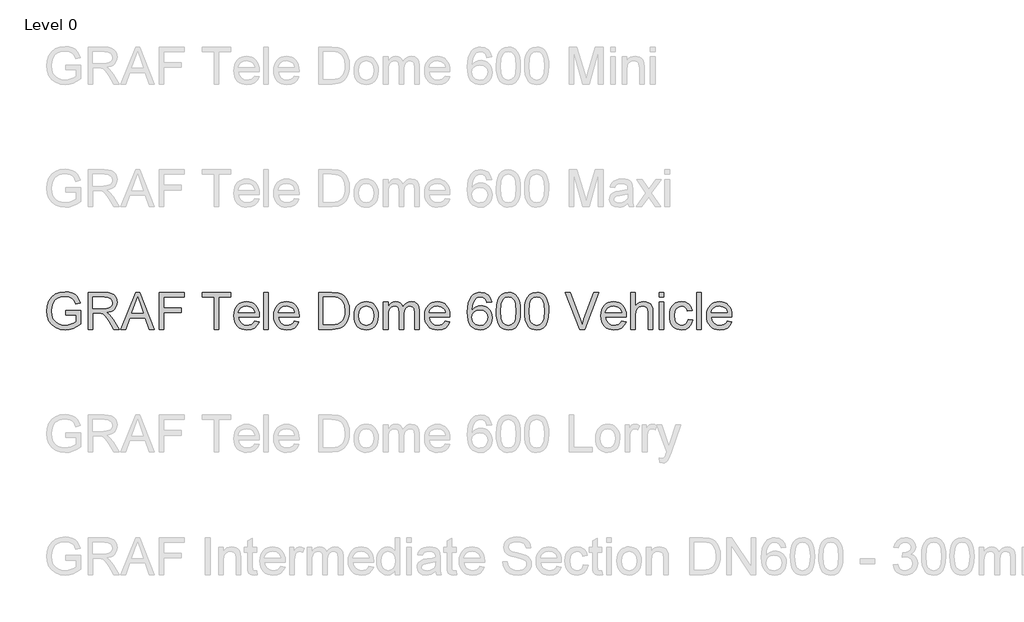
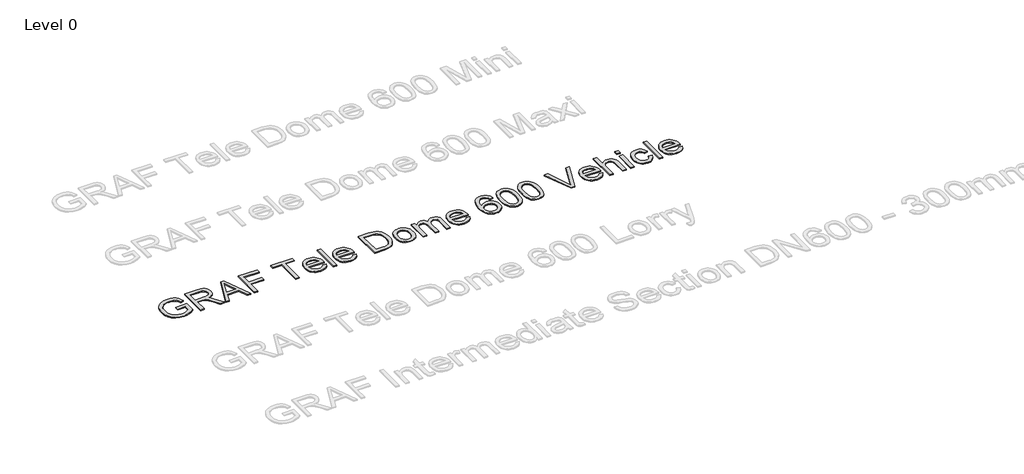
# One storey, part 7 of 20: 1 proxy.
"""IFC4 building model written with IfcOpenShell, lengths in millimetres."""

import ifcopenshell
import ifcopenshell.guid

model = None  # the IFC model being written
_history = None  # IfcOwnerHistory: only IFC2X3 demands one
_inside = {}  # id of a spatial element -> (the spatial element, [elements in it])
_under = {}  # id of a project, library or spatial element -> (it, [spatial elements below it])
_declared = {}  # id of a project -> (the project, [libraries it declares])
_typed = {}  # id of a type object -> (the type object, [elements of that type])
_made_of = {}  # id of a material, layer set ... -> (it, [elements and type objects made of it])


def new_model(schema):
    """Start an empty IFC model of exactly this schema.

    Asked for "IFC4X3", IfcOpenShell would pick the latest addendum, in which some entities
    have other attributes; the version numbers below select the first issue.
    IFC2X3 requires an IfcOwnerHistory on every rooted entity: one is made here for all.
    """
    global model, _history
    if schema == "IFC4X3":
        model = ifcopenshell.file(schema_version=(4, 3, 0, 0))
    else:
        model = ifcopenshell.file(schema=schema)
    _inside.clear()
    _under.clear()
    _declared.clear()
    _typed.clear()
    _made_of.clear()
    _history = None
    if model.schema == "IFC2X3":
        org = make("IfcOrganization", Name="unknown")
        user = make(
            "IfcPersonAndOrganization",
            ThePerson=make("IfcPerson", FamilyName="unknown"),
            TheOrganization=org,
        )
        app = make(
            "IfcApplication",
            ApplicationDeveloper=org,
            Version="unknown",
            ApplicationFullName="unknown",
            ApplicationIdentifier="unknown",
        )
        _history = make(
            "IfcOwnerHistory",
            OwningUser=user,
            OwningApplication=app,
            ChangeAction="ADDED",
            CreationDate=0,
        )
    return model


def make(cls, **values):
    """One entity of the class cls with the attributes given. An attribute that is None is left unset."""
    return model.create_entity(
        cls, **{name: value for name, value in values.items() if value is not None}
    )


def rooted(cls, **values):
    """An entity with a GlobalId (a new one), such as an element, a storey or a relation."""
    return make(cls, GlobalId=ifcopenshell.guid.new(), OwnerHistory=_history, **values)


def si_unit(unit_type, name, prefix=None):
    """IfcSIUnit, for example si_unit("LENGTHUNIT", "METRE", prefix="MILLI")."""
    return make("IfcSIUnit", UnitType=unit_type, Prefix=prefix, Name=name)


def assignment(units):
    """IfcUnitAssignment: the units of a project."""
    return None if units is None else make("IfcUnitAssignment", Units=units)


def point(xyz):
    """IfcCartesianPoint."""
    return None if xyz is None else make("IfcCartesianPoint", Coordinates=xyz)


def direction(xyz):
    """IfcDirection."""
    return None if xyz is None else make("IfcDirection", DirectionRatios=xyz)


def frame(location, z_axis=None, x_axis=None):
    """IfcAxis2Placement3D, a coordinate frame: its origin and axes. An axis left out is left unset."""
    return make(
        "IfcAxis2Placement3D",
        Location=point(location),
        Axis=direction(z_axis),
        RefDirection=direction(x_axis),
    )


def origin():
    """The frame at (0, 0, 0) with its axes left unset."""
    return frame((0.0, 0.0, 0.0))


def origin_with_axes():
    """The frame at (0, 0, 0) with the z axis (0, 0, 1) and the x axis (1, 0, 0) written out."""
    return frame((0.0, 0.0, 0.0), z_axis=(0.0, 0.0, 1.0), x_axis=(1.0, 0.0, 0.0))


def place(relative_to, where):
    """IfcLocalPlacement: puts the frame where relative to a parent placement (None: the world)."""
    return make(
        "IfcLocalPlacement", PlacementRelTo=relative_to, RelativePlacement=where
    )


def context(
    kind, dimensions, precision=None, world=None, true_north=None, identifier=None
):
    """IfcGeometricRepresentationContext, for example the 3D "Model" context."""
    return make(
        "IfcGeometricRepresentationContext",
        ContextIdentifier=identifier,
        ContextType=kind,
        CoordinateSpaceDimension=dimensions,
        Precision=precision,
        WorldCoordinateSystem=world,
        TrueNorth=true_north,
    )


def project(units=None, contexts=None):
    """IfcProject with its units and contexts."""
    return rooted(
        "IfcProject",
        Name="project",
        RepresentationContexts=contexts,
        UnitsInContext=assignment(units),
    )


def spatial(cls, under=None, at=None, **own):
    """A site, building, storey or space (cls), placed at a placement, below another one or the project."""
    s = rooted(cls, ObjectPlacement=at, **own)
    if under is not None:
        _under.setdefault(under.id(), (under, []))[1].append(s)
    return s


def polyline(points):
    """IfcPolyline through the points."""
    return make("IfcPolyline", Points=[point(p) for p in points])


def outline(outer, holes=None, kind="AREA"):
    """IfcArbitraryClosedProfileDef: a profile drawn as a closed curve; with holes, ...WithVoids."""
    if holes is None:
        return make("IfcArbitraryClosedProfileDef", ProfileType=kind, OuterCurve=outer)
    return make(
        "IfcArbitraryProfileDefWithVoids",
        ProfileType=kind,
        OuterCurve=outer,
        InnerCurves=holes,
    )


def extrude(swept, where, along, depth):
    """IfcExtrudedAreaSolid: the profile swept, set in the frame where, extruded along a direction by depth."""
    return make(
        "IfcExtrudedAreaSolid",
        SweptArea=swept,
        Position=where,
        ExtrudedDirection=direction(along),
        Depth=depth,
    )


def shape(context_of_items, identifier, shape_type, items):
    """IfcShapeRepresentation: the items that make up one representation, for example the "Body"."""
    return make(
        "IfcShapeRepresentation",
        ContextOfItems=context_of_items,
        RepresentationIdentifier=identifier,
        RepresentationType=shape_type,
        Items=items,
    )


def made_of(thing, what):
    """Note that an element or type object is made of a material, layer set ...; save() writes the relation."""
    if what is not None:
        _made_of.setdefault(what.id(), (what, []))[1].append(thing)
    return thing


def element(
    cls,
    number,
    at=None,
    inside=None,
    cuts=None,
    type_object=None,
    material=None,
    context=None,
    identifier="Body",
    shape_type=None,
    held_by="IfcProductDefinitionShape",
    body=None,
    shapes=None,
    **own,
):
    """One element of the class cls, such as IfcWall. Its Tag is "e" and its number.

    at: its placement. inside: the storey or other place that contains it. cuts: it is an
    opening in that element (IfcRelVoidsElement). A single representation is given by context,
    identifier, shape_type and body (its items); several are given by shapes. held_by: the class
    of the entity that holds the representations. save() writes the other relations.
    """
    e = rooted(cls, Tag="e%d" % number, ObjectPlacement=at, **own)
    if body is not None:
        shapes = [shape(context, identifier, shape_type, body)]
    if shapes is not None:
        e.Representation = make(held_by, Representations=shapes)
    if inside is not None:
        _inside.setdefault(inside.id(), (inside, []))[1].append(e)
    if cuts is not None:
        rooted(
            "IfcRelVoidsElement", RelatingBuildingElement=cuts, RelatedOpeningElement=e
        )
    if type_object is not None:
        _typed.setdefault(type_object.id(), (type_object, []))[1].append(e)
    return made_of(e, material)


def aggregate(whole, parts):
    """IfcRelAggregates: a whole, such as a stair, and the parts it consists of."""
    return rooted("IfcRelAggregates", RelatingObject=whole, RelatedObjects=parts)


def save(model, path):
    """Write the relations noted so far, then the file.

    IfcRelAggregates (storeys below a building ...), IfcRelContainedInSpatialStructure (elements
    in a storey), IfcRelDefinesByType, IfcRelAssociatesMaterial and IfcRelDeclares: one each for
    every whole, place, type object, material and project.
    """
    for whole, parts in _under.values():
        aggregate(whole, parts)
    for where, things in _inside.values():
        rooted(
            "IfcRelContainedInSpatialStructure",
            RelatedElements=things,
            RelatingStructure=where,
        )
    for kind, things in _typed.values():
        rooted("IfcRelDefinesByType", RelatedObjects=things, RelatingType=kind)
    for what, things in _made_of.values():
        rooted("IfcRelAssociatesMaterial", RelatedObjects=things, RelatingMaterial=what)
    for by, libraries in _declared.values():
        rooted("IfcRelDeclares", RelatingContext=by, RelatedDefinitions=libraries)
    model.write(path)


model = new_model("IFC4")

# Units and contexts
model_context = context("Model", 3, world=origin())
ifc_project = project(units=[si_unit("LENGTHUNIT", "METRE", prefix="MILLI")], contexts=[model_context])

# Site, building, storey
site = spatial("IfcSite", under=ifc_project)
building = spatial("IfcBuilding", under=site)
storey = spatial("IfcBuildingStorey", under=building, Name="Level 0", Elevation=0.0)

# Proxy
placement = place(None, origin())
element("IfcBuildingElementProxy", 1, Name="300mm Arial", ObjectType="300mm Arial", at=placement, inside=storey, context=model_context, shape_type="SweptSolid", body=[
    extrude(outline(polyline([(-15240.9940387, -11082.9794047), (-15240.9940387, -11045.3082884), (-15118.5629107, -11045.3082884), (-15118.5629107, -11157.9537553), (-15148.3153671, -11178.6471176), (-15179.0059225, -11193.4911561), (-15210.5610007, -11202.4306885), (-15242.9070251, -11205.4105327), (-15285.1674693, -11200.674052), (-15323.3628175, -11186.46461), (-15355.0926395, -11163.2788472), (-15377.9565055, -11131.6134045), (-15391.7796715, -11093.6295885), (-15396.3873935, -11051.4887059), (-15391.7980656, -11009.0443207), (-15378.0300819, -10969.5613856), (-15355.6536596, -10936.442809), (-15325.2390156, -10913.0914993), (-15288.1932987, -10899.2407422), (-15245.9236575, -10894.6238232), (-15214.8928112, -10897.3001647), (-15186.9889618, -10905.3291892), (-15163.4904994, -10918.1314827), (-15145.6758138, -10935.1276309), (-15132.4964413, -10957.1361712), (-15122.9039183, -10984.9756412), (-15157.6319786, -10994.7613023), (-15165.3850917, -10974.9048716), (-15174.8120678, -10959.9228773), (-15187.2832674, -10948.6289001), (-15204.169051, -10939.8365204), (-15224.3013932, -10934.1803347), (-15246.5122687, -10932.2949395), (-15272.5123287, -10934.3274875), (-15294.7415982, -10940.4251316), (-15313.1173039, -10949.8245166), (-15327.5566722, -10961.7622873), (-15346.9440533, -10990.7881767), (-15355.7732212, -11019.225455), (-15358.7162772, -11049.9436015), (-15355.175413, -11085.9684459), (-15344.5528204, -11115.6105377), (-15327.1703961, -11138.6583447), (-15303.3500369, -11154.9003348), (-15275.4737787, -11164.529646), (-15245.9236575, -11167.7394164), (-15219.831627, -11165.3205923), (-15194.3833899, -11158.0641199), (-15172.2828791, -11148.0669267), (-15156.234027, -11137.42594), (-15156.234027, -11082.9794047), (-15240.9940387, -11082.9794047)])), origin_with_axes(), (0.0, 0.0, 1.0), 10.0),
    extrude(outline(polyline([(-15057.3473467, -11200.7016432), (-15057.3473467, -10899.3327127), (-14927.4850024, -10899.3327127), (-14892.5821982, -10901.3652607), (-14867.1891434, -10907.4629048), (-14848.6294968, -10918.7200939), (-14834.2269167, -10936.2312768), (-14824.9838815, -10957.9455116), (-14821.9028698, -10981.811856), (-14827.0072325, -11011.4999331), (-14842.3203206, -11036.1112385), (-14853.9200997, -11046.1406214), (-14868.3019865, -11054.1558504), (-14905.4120827, -11064.1438466), (-14884.0013506, -11080.257078), (-14853.467145, -11119.0318402), (-14803.2144645, -11200.7016432), (-14846.9924219, -11200.7016432), (-14886.2086426, -11138.2352804), (-14914.5355562, -11096.8853441), (-14934.4379722, -11077.3508102), (-14952.3538253, -11070.1771113), (-14974.2060158, -11068.8527361), (-15019.6762304, -11068.8527361), (-15019.6762304, -11200.7016432), (-15057.3473467, -11200.7016432)]), holes=[polyline([(-15019.6762304, -11031.1816198), (-14935.3576771, -11031.1816198), (-14911.1418448, -11029.8480476), (-14892.3522719, -11025.8473309), (-14878.2072092, -11018.9127553), (-14867.9249074, -11008.7776063), (-14861.6617165, -10996.5179388), (-14859.5739861, -10983.2098076), (-14863.5563087, -10964.834102), (-14875.5032765, -10950.0268517), (-14896.058683, -10940.2595847), (-14925.8663217, -10937.003829), (-15019.6762304, -10937.003829), (-15019.6762304, -11031.1816198)])]), origin_with_axes(), (0.0, 0.0, 1.0), 10.0),
    extrude(outline(polyline([(-14791.0743586, -11200.7016432), (-14670.7769462, -10899.3327127), (-14638.6976362, -10899.3327127), (-14518.4002238, -11200.7016432), (-14558.2050557, -11200.7016432), (-14592.7123868, -11106.5238524), (-14716.835772, -11106.5238524), (-14751.2695268, -11200.7016432), (-14791.0743586, -11200.7016432)]), holes=[polyline([(-14703.003409, -11068.8527361), (-14606.4711735, -11068.8527361), (-14633.6208647, -10994.7613023), (-14654.7372912, -10937.003829), (-14673.499273, -10988.2865792), (-14703.003409, -11068.8527361)])]), origin_with_axes(), (0.0, 0.0, 1.0), 10.0),
    extrude(outline(polyline([(-14478.1539335, -11200.7016432), (-14478.1539335, -10899.3327127), (-14275.6716834, -10899.3327127), (-14275.6716834, -10937.003829), (-14440.4828172, -10937.003829), (-14440.4828172, -11026.4727303), (-14299.2161311, -11026.4727303), (-14299.2161311, -11064.1438466), (-14440.4828172, -11064.1438466), (-14440.4828172, -11200.7016432), (-14478.1539335, -11200.7016432)])), origin_with_axes(), (0.0, 0.0, 1.0), 10.0),
    extrude(outline(polyline([(-14030.8094274, -11200.7016432), (-14030.8094274, -10937.003829), (-14129.6961077, -10937.003829), (-14129.6961077, -10899.3327127), (-13894.2516308, -10899.3327127), (-13894.2516308, -10937.003829), (-13993.1383111, -10937.003829), (-13993.1383111, -11200.7016432), (-14030.8094274, -11200.7016432)])), origin_with_axes(), (0.0, 0.0, 1.0), 10.0),
    extrude(outline(polyline([(-13701.6286181, -11134.7771896), (-13664.6932658, -11139.4860792), (-13678.001397, -11167.3163521), (-13699.2373851, -11188.1200789), (-13727.9229837, -11201.0879193), (-13763.5799461, -11205.4105327), (-13786.9542484, -11203.5458308), (-13807.7809678, -11197.9517253), (-13826.0601045, -11188.6282159), (-13841.7916583, -11175.5753029), (-13854.4422004, -11159.1562696), (-13863.4783019, -11139.7343995), (-13868.8999628, -11117.3096927), (-13870.7071831, -11091.882149), (-13868.8815687, -11065.5923819), (-13863.4047255, -11042.4204147), (-13854.2766535, -11022.3662475), (-13841.4973527, -11005.4298801), (-13825.8071856, -10991.9745962), (-13807.9465147, -10982.363679), (-13787.9153401, -10976.5971288), (-13765.7136617, -10974.6749453), (-13744.2270539, -10976.5925302), (-13724.7959868, -10982.3452849), (-13707.4204603, -10991.9332094), (-13692.1004744, -11005.3563037), (-13679.5947859, -11022.2558829), (-13670.6621512, -11042.2732619), (-13665.3025704, -11065.4084409), (-13663.5160434, -11091.6614198), (-13663.7367726, -11101.8149629), (-13833.0360668, -11101.8149629), (-13826.5153584, -11130.0131178), (-13811.3678173, -11150.7432682), (-13789.5064297, -11163.4903794), (-13762.8441821, -11167.7394164), (-13742.7946134, -11165.7712477), (-13725.9088298, -11159.8667417), (-13712.1868314, -11149.6580163), (-13701.6286181, -11134.7771896)]), holes=[polyline([(-13833.0360668, -11064.1438466), (-13701.1871597, -11064.1438466), (-13706.2823254, -11044.2414306), (-13716.2703215, -11030.0043974), (-13738.2328766, -11016.7606456), (-13765.8608145, -11012.3460616), (-13791.2538692, -11015.8685317), (-13812.2507341, -11026.4359421), (-13826.8464522, -11042.9078584), (-13833.0360668, -11064.1438466)])]), origin_with_axes(), (0.0, 0.0, 1.0), 10.0),
    extrude(outline(polyline([(-13625.8449271, -11200.7016432), (-13625.8449271, -10899.3327127), (-13588.1738108, -10899.3327127), (-13588.1738108, -11200.7016432), (-13625.8449271, -11200.7016432)])), origin_with_axes(), (0.0, 0.0, 1.0), 10.0),
    extrude(outline(polyline([(-13376.71524, -11134.7771896), (-13339.7798877, -11139.4860792), (-13353.0880188, -11167.3163521), (-13374.324007, -11188.1200789), (-13403.0096056, -11201.0879193), (-13438.666568, -11205.4105327), (-13462.0408702, -11203.5458308), (-13482.8675897, -11197.9517253), (-13501.1467263, -11188.6282159), (-13516.8782801, -11175.5753029), (-13529.5288222, -11159.1562696), (-13538.5649238, -11139.7343995), (-13543.9865847, -11117.3096927), (-13545.793805, -11091.882149), (-13543.9681906, -11065.5923819), (-13538.4913474, -11042.4204147), (-13529.3632754, -11022.3662475), (-13516.5839745, -11005.4298801), (-13500.8938074, -10991.9745962), (-13483.0331366, -10982.363679), (-13463.0019619, -10976.5971288), (-13440.8002835, -10974.6749453), (-13419.3136758, -10976.5925302), (-13399.8826086, -10982.3452849), (-13382.5070821, -10991.9332094), (-13367.1870963, -11005.3563037), (-13354.6814077, -11022.2558829), (-13345.748773, -11042.2732619), (-13340.3891922, -11065.4084409), (-13338.6026653, -11091.6614198), (-13338.8233945, -11101.8149629), (-13508.1226887, -11101.8149629), (-13501.6019803, -11130.0131178), (-13486.4544391, -11150.7432682), (-13464.5930516, -11163.4903794), (-13437.930804, -11167.7394164), (-13417.8812352, -11165.7712477), (-13400.9954517, -11159.8667417), (-13387.2734532, -11149.6580163), (-13376.71524, -11134.7771896)]), holes=[polyline([(-13508.1226887, -11064.1438466), (-13376.2737816, -11064.1438466), (-13381.3689472, -11044.2414306), (-13391.3569434, -11030.0043974), (-13413.3194985, -11016.7606456), (-13440.9474363, -11012.3460616), (-13466.3404911, -11015.8685317), (-13487.3373559, -11026.4359421), (-13501.9330741, -11042.9078584), (-13508.1226887, -11064.1438466)])]), origin_with_axes(), (0.0, 0.0, 1.0), 10.0),
    extrude(outline(polyline([(-13178.500421, -11200.7016432), (-13178.500421, -10899.3327127), (-13074.5369691, -10899.3327127), (-13020.7526214, -10903.6737203), (-12996.7299272, -10912.0430357), (-12976.4596292, -10925.2316052), (-12955.6191142, -10948.1874417), (-12940.7750757, -10976.7350845), (-12931.8907255, -11010.3227107), (-12928.9292754, -11048.3984972), (-12930.9342323, -11080.7445216), (-12936.9491029, -11109.209391), (-12946.1093646, -11133.4436174), (-12957.5504947, -11153.097713), (-12970.7206701, -11168.6131361), (-12985.0680679, -11180.4313452), (-13001.5399842, -11189.1961338), (-13021.0837152, -11195.5512952), (-13069.533774, -11200.7016432), (-13178.500421, -11200.7016432)]), holes=[polyline([(-13140.8293047, -11163.0305269), (-13074.1690871, -11163.0305269), (-13046.5963316, -11161.6693635), (-13025.6822402, -11157.5858733), (-13009.9001026, -11151.0191797), (-12997.7232085, -11142.2084059), (-12984.6358066, -11125.9020365), (-12974.8041602, -11104.794807), (-12968.6513339, -11078.794747), (-12966.6003918, -11047.809886), (-12970.6195026, -11006.7542553), (-12982.6768349, -10976.4407789), (-13000.4915206, -10955.618658), (-13021.782691, -10943.0370938), (-13043.4509405, -10938.5121452), (-13075.1991567, -10937.003829), (-13140.8293047, -10937.003829), (-13140.8293047, -11163.0305269)])]), origin_with_axes(), (0.0, 0.0, 1.0), 10.0),
    extrude(outline(polyline([(-12891.2581591, -11090.042739), (-12889.2210126, -11061.3801331), (-12883.1095729, -11036.6814556), (-12872.9238402, -11015.9467067), (-12858.6638144, -10999.1758862), (-12844.3072195, -10988.4567246), (-12828.4607026, -10980.8001806), (-12811.1242635, -10976.2062541), (-12792.2979024, -10974.6749453), (-12771.514869, -10976.5396472), (-12752.7229968, -10982.1337528), (-12735.9222859, -10991.4572621), (-12721.1127364, -11004.5101751), (-12709.0255136, -11020.8510335), (-12700.391783, -11040.0383788), (-12695.2115447, -11062.0722111), (-12693.4847985, -11086.9525303), (-12696.5382191, -11125.0099227), (-12705.6984808, -11153.9806298), (-12720.6988691, -11175.6764705), (-12741.2726697, -11191.9092635), (-12765.7092312, -11202.0352154), (-12792.2979024, -11205.4105327), (-12813.3844386, -11203.5527286), (-12832.3510547, -11197.9793164), (-12849.1977508, -11188.690296), (-12863.9245269, -11175.6856675), (-12875.882991, -11159.18616), (-12884.4247511, -11139.4125028), (-12889.5498071, -11116.3646958), (-12891.2581591, -11090.042739)]), holes=[polyline([(-12853.5870428, -11089.9691626), (-12849.2276412, -11124.0626265), (-12836.1494363, -11148.3520353), (-12816.4677495, -11162.8925711), (-12792.2979024, -11167.7394164), (-12768.23842, -11162.86498), (-12748.5935214, -11148.2416707), (-12735.5153165, -11123.6303652), (-12731.1559148, -11088.7919402), (-12735.5429076, -11055.6917577), (-12748.703886, -11031.7334428), (-12768.3763757, -11017.1929069), (-12792.2979024, -11012.3460616), (-12816.4677495, -11017.1745128), (-12836.1494363, -11031.6598664), (-12849.2276412, -11055.8940928), (-12853.5870428, -11089.9691626)])]), origin_with_axes(), (0.0, 0.0, 1.0), 10.0),
    extrude(outline(polyline([(-12651.1047927, -11200.7016432), (-12651.1047927, -10979.3838349), (-12613.4336764, -10979.3838349), (-12613.4336764, -11015.8041524), (-12602.1029109, -10999.0747187), (-12587.5347839, -10985.9689226), (-12570.2259361, -10977.4984396), (-12550.673008, -10974.6749453), (-12529.7221284, -10977.5536219), (-12512.9283153, -10986.1896518), (-12500.3835393, -11000.0128178), (-12492.1797708, -11018.4529028), (-12478.4485753, -10999.3000464), (-12462.7859994, -10985.6194347), (-12445.1920429, -10977.4110677), (-12425.666706, -10974.6749453), (-12397.3489895, -10979.227485), (-12376.4073069, -10992.8851041), (-12363.4670577, -11016.0156845), (-12359.1536413, -11048.9871084), (-12359.1536413, -11200.7016432), (-12396.8247576, -11200.7016432), (-12396.8247576, -11065.1739161), (-12400.3196366, -11033.7200056), (-12405.2308612, -11025.0471875), (-12412.9747772, -11018.2321736), (-12422.9351822, -11013.8175896), (-12434.4958739, -11012.3460616), (-12454.9041276, -11016.1168521), (-12471.5415908, -11027.4292234), (-12482.6056419, -11047.0557279), (-12486.2936589, -11075.7689176), (-12486.2936589, -11200.7016432), (-12523.9647752, -11200.7016432), (-12523.9647752, -11060.9800614), (-12526.144476, -11039.6796939), (-12532.6835784, -11024.4861675), (-12544.1890878, -11015.3810881), (-12561.2680095, -11012.3460616), (-12575.7809542, -11014.3694126), (-12589.1534647, -11020.4394655), (-12600.1899246, -11030.4090676), (-12607.6947173, -11044.131066), (-12611.9989366, -11063.1689593), (-12613.4336764, -11089.0862458), (-12613.4336764, -11200.7016432), (-12651.1047927, -11200.7016432)])), origin_with_axes(), (0.0, 0.0, 1.0), 10.0),
    extrude(outline(polyline([(-12147.6950705, -11134.7771896), (-12110.7597182, -11139.4860792), (-12124.0678494, -11167.3163521), (-12145.3038375, -11188.1200789), (-12173.9894361, -11201.0879193), (-12209.6463985, -11205.4105327), (-12233.0207007, -11203.5458308), (-12253.8474202, -11197.9517253), (-12272.1265568, -11188.6282159), (-12287.8581107, -11175.5753029), (-12300.5086528, -11159.1562696), (-12309.5447543, -11139.7343995), (-12314.9664152, -11117.3096927), (-12316.7736355, -11091.882149), (-12314.9480211, -11065.5923819), (-12309.4711779, -11042.4204147), (-12300.3431059, -11022.3662475), (-12287.5638051, -11005.4298801), (-12271.873638, -10991.9745962), (-12254.0129671, -10982.363679), (-12233.9817925, -10976.5971288), (-12211.7801141, -10974.6749453), (-12190.2935063, -10976.5925302), (-12170.8624391, -10982.3452849), (-12153.4869127, -10991.9332094), (-12138.1669268, -11005.3563037), (-12125.6612382, -11022.2558829), (-12116.7286035, -11042.2732619), (-12111.3690227, -11065.4084409), (-12109.5824958, -11091.6614198), (-12109.803225, -11101.8149629), (-12279.1025192, -11101.8149629), (-12272.5818108, -11130.0131178), (-12257.4342697, -11150.7432682), (-12235.5728821, -11163.4903794), (-12208.9106345, -11167.7394164), (-12188.8610658, -11165.7712477), (-12171.9752822, -11159.8667417), (-12158.2532838, -11149.6580163), (-12147.6950705, -11134.7771896)]), holes=[polyline([(-12279.1025192, -11064.1438466), (-12147.2536121, -11064.1438466), (-12152.3487777, -11044.2414306), (-12162.3367739, -11030.0043974), (-12184.299329, -11016.7606456), (-12211.9272668, -11012.3460616), (-12237.3203216, -11015.8685317), (-12258.3171864, -11026.4359421), (-12272.9129046, -11042.9078584), (-12279.1025192, -11064.1438466)])]), origin_with_axes(), (0.0, 0.0, 1.0), 10.0),
    extrude(outline(polyline([(-11770.542449, -10979.3838349), (-11808.2135653, -10984.0927244), (-11814.2836183, -10965.4227132), (-11822.4873868, -10952.675602), (-11839.5755054, -10940.9217723), (-11860.2320795, -10937.003829), (-11877.7432624, -10939.2846974), (-11894.2243758, -10946.1273025), (-11908.3786356, -10960.5390797), (-11919.9393273, -10980.3771163), (-11927.7476226, -11008.4373154), (-11930.6446933, -11047.5155804), (-11915.5339404, -11029.8848358), (-11897.4249492, -11017.4596214), (-11877.3293952, -11010.0927844), (-11856.2589539, -11007.6371721), (-11838.1591597, -11009.3156337), (-11821.4573172, -11014.3510185), (-11806.1534262, -11022.7433265), (-11792.2474868, -11034.4925578), (-11780.6913936, -11048.8997364), (-11772.4370413, -11065.2658866), (-11767.48443, -11083.5910085), (-11765.8335595, -11103.875102), (-11768.9421624, -11130.8500493), (-11778.2679709, -11155.856828), (-11793.038433, -11177.065225), (-11812.4809965, -11192.6450275), (-11835.7127445, -11202.2191564), (-11861.8507602, -11205.4105327), (-11884.3076568, -11203.2952112), (-11904.589451, -11196.9492468), (-11922.696143, -11186.3726395), (-11938.6277326, -11171.5653892), (-11951.6162663, -11151.9020965), (-11960.8937904, -11126.7573621), (-11966.4603048, -11096.131186), (-11968.3158096, -11060.0235682), (-11966.2556705, -11019.5427532), (-11960.075253, -10984.9940353), (-11949.7745571, -10956.3774146), (-11935.3535829, -10933.6928911), (-11919.7231966, -10918.660313), (-11901.6004098, -10907.9227573), (-11880.9852225, -10901.4802239), (-11857.8776347, -10899.3327127), (-11824.8234374, -10904.6486076), (-11798.3543279, -10920.596292), (-11779.8130753, -10945.9249674), (-11770.542449, -10979.3838349)]), holes=[polyline([(-11930.6446933, -11103.2864908), (-11928.4649925, -11119.9791364), (-11921.9258901, -11135.9176238), (-11911.772347, -11149.6212281), (-11898.7493244, -11159.6092243), (-11883.0315661, -11165.7068684), (-11864.7938162, -11167.7394164), (-11839.9341904, -11163.5271676), (-11820.3904594, -11150.890421), (-11807.7261217, -11131.0247933), (-11803.5046758, -11105.1259008), (-11807.6709394, -11080.266275), (-11820.1697302, -11061.3111552), (-11840.044555, -11049.3090051), (-11866.3389206, -11045.3082884), (-11891.1617582, -11049.3090051), (-11911.9194998, -11061.3111552), (-11925.9633949, -11079.8064225), (-11930.6446933, -11103.2864908)])]), origin_with_axes(), (0.0, 0.0, 1.0), 10.0),
    extrude(outline(polyline([(-11732.8713327, -11052.4451991), (-11730.1030207, -11004.2066725), (-11721.7980847, -10965.7354129), (-11708.0392981, -10936.442809), (-11688.9094343, -10915.7402497), (-11664.2705377, -10903.434597), (-11633.9846524, -10899.3327127), (-11610.7712985, -10901.7607339), (-11589.9859658, -10909.0447974), (-11572.6035415, -10920.8997947), (-11559.598913, -10937.0406172), (-11549.7764637, -10957.3293093), (-11541.9405772, -10981.627915), (-11536.8086234, -11012.4840174), (-11535.0979721, -11052.4451991), (-11537.838693, -11100.4078142), (-11546.0608556, -11138.7871034), (-11559.7368687, -11168.1072984), (-11578.8391413, -11188.8926311), (-11603.5332203, -11201.2810573), (-11633.9846524, -11205.4105327), (-11654.733197, -11203.617108), (-11673.1272967, -11198.2368338), (-11689.1669517, -11189.2697102), (-11702.8521619, -11176.7157371), (-11715.9855492, -11154.0220165), (-11725.36654, -11125.7456867), (-11730.9951346, -11091.8867475), (-11732.8713327, -11052.4451991)]), holes=[polyline([(-11695.2002164, -11052.3716227), (-11690.7856325, -11111.6282151), (-11685.2674026, -11131.8962138), (-11677.5418807, -11145.9240141), (-11657.8234057, -11162.2855658), (-11633.9846524, -11167.7394164), (-11610.1458991, -11162.2671717), (-11590.4274242, -11145.8504377), (-11582.7019023, -11131.7996447), (-11577.1836724, -11111.5362446), (-11572.7690884, -11052.3716227), (-11577.0365196, -10994.4486026), (-11582.3708085, -10974.2472825), (-11589.838813, -10959.8860891), (-11609.5204997, -10942.7243941), (-11634.4261108, -10937.003829), (-11658.0073467, -10942.0438124), (-11676.9532695, -10957.1637624), (-11684.9363088, -10972.7987472), (-11690.6384797, -10993.8783855), (-11695.2002164, -11052.3716227)])]), origin_with_axes(), (0.0, 0.0, 1.0), 10.0),
    extrude(outline(polyline([(-11502.1357454, -11052.4451991), (-11499.3674333, -11004.2066725), (-11491.0624973, -10965.7354129), (-11477.3037107, -10936.442809), (-11458.1738469, -10915.7402497), (-11433.5349503, -10903.434597), (-11403.2490651, -10899.3327127), (-11380.0357112, -10901.7607339), (-11359.2503784, -10909.0447974), (-11341.8679542, -10920.8997947), (-11328.8633256, -10937.0406172), (-11319.0408764, -10957.3293093), (-11311.2049899, -10981.627915), (-11306.073036, -11012.4840174), (-11304.3623847, -11052.4451991), (-11307.1031056, -11100.4078142), (-11315.3252682, -11138.7871034), (-11329.0012814, -11168.1072984), (-11348.103554, -11188.8926311), (-11372.7976329, -11201.2810573), (-11403.2490651, -11205.4105327), (-11423.9976096, -11203.617108), (-11442.3917093, -11198.2368338), (-11458.4313643, -11189.2697102), (-11472.1165745, -11176.7157371), (-11485.2499618, -11154.0220165), (-11494.6309527, -11125.7456867), (-11500.2595472, -11091.8867475), (-11502.1357454, -11052.4451991)]), holes=[polyline([(-11464.464629, -11052.3716227), (-11460.0500451, -11111.6282151), (-11454.5318152, -11131.8962138), (-11446.8062933, -11145.9240141), (-11427.0878183, -11162.2855658), (-11403.2490651, -11167.7394164), (-11379.4103118, -11162.2671717), (-11359.6918368, -11145.8504377), (-11351.9663149, -11131.7996447), (-11346.448085, -11111.5362446), (-11342.0335011, -11052.3716227), (-11346.3009322, -10994.4486026), (-11351.6352211, -10974.2472825), (-11359.1032256, -10959.8860891), (-11378.7849124, -10942.7243941), (-11403.6905234, -10937.003829), (-11427.2717593, -10942.0438124), (-11446.2176821, -10957.1637624), (-11454.2007214, -10972.7987472), (-11459.9028923, -10993.8783855), (-11464.464629, -11052.3716227)])]), origin_with_axes(), (0.0, 0.0, 1.0), 10.0),
    extrude(outline(polyline([(-11050.5238081, -11200.7016432), (-11170.4533385, -10899.3327127), (-11130.1334718, -10899.3327127), (-11049.8616205, -11116.4566663), (-11033.6012363, -11165.3849716), (-11017.5615813, -11116.4566663), (-10937.0690008, -10899.3327127), (-10896.7491341, -10899.3327127), (-11011.601893, -11200.7016432), (-11050.5238081, -11200.7016432)])), origin_with_axes(), (0.0, 0.0, 1.0), 10.0),
    extrude(outline(polyline([(-10711.4837613, -11134.7771896), (-10674.548409, -11139.4860792), (-10687.8565402, -11167.3163521), (-10709.0925284, -11188.1200789), (-10737.7781269, -11201.0879193), (-10773.4350893, -11205.4105327), (-10796.8093916, -11203.5458308), (-10817.636111, -11197.9517253), (-10835.9152477, -11188.6282159), (-10851.6468015, -11175.5753029), (-10864.2973436, -11159.1562696), (-10873.3334451, -11139.7343995), (-10878.755106, -11117.3096927), (-10880.5623263, -11091.882149), (-10878.7367119, -11065.5923819), (-10873.2598687, -11042.4204147), (-10864.1317967, -11022.3662475), (-10851.3524959, -11005.4298801), (-10835.6623288, -10991.9745962), (-10817.8016579, -10982.363679), (-10797.7704833, -10976.5971288), (-10775.5688049, -10974.6749453), (-10754.0821971, -10976.5925302), (-10734.65113, -10982.3452849), (-10717.2756035, -10991.9332094), (-10701.9556176, -11005.3563037), (-10689.4499291, -11022.2558829), (-10680.5172944, -11042.2732619), (-10675.1577136, -11065.4084409), (-10673.3711866, -11091.6614198), (-10673.5919158, -11101.8149629), (-10842.89121, -11101.8149629), (-10836.3705016, -11130.0131178), (-10821.2229605, -11150.7432682), (-10799.3615729, -11163.4903794), (-10772.6993253, -11167.7394164), (-10752.6497566, -11165.7712477), (-10735.763973, -11159.8667417), (-10722.0419746, -11149.6580163), (-10711.4837613, -11134.7771896)]), holes=[polyline([(-10842.89121, -11064.1438466), (-10711.0423029, -11064.1438466), (-10716.1374686, -11044.2414306), (-10726.1254647, -11030.0043974), (-10748.0880198, -11016.7606456), (-10775.7159577, -11012.3460616), (-10801.1090124, -11015.8685317), (-10822.1058773, -11026.4359421), (-10836.7015954, -11042.9078584), (-10842.89121, -11064.1438466)])]), origin_with_axes(), (0.0, 0.0, 1.0), 10.0),
    extrude(outline(polyline([(-10635.7000703, -11200.7016432), (-10635.7000703, -10899.3327127), (-10598.028954, -10899.3327127), (-10598.028954, -11010.1387697), (-10584.1919925, -10994.6233465), (-10568.6535767, -10983.5409014), (-10551.4137067, -10976.8914344), (-10532.4723825, -10974.6749453), (-10509.7188811, -10977.0937695), (-10490.165953, -10984.3502418), (-10474.7700915, -10995.8741453), (-10464.4877898, -11011.0952629), (-10458.6936483, -11032.0093543), (-10456.7622679, -11060.6121794), (-10456.7622679, -11200.7016432), (-10494.4333842, -11200.7016432), (-10494.4333842, -11064.5117286), (-10497.4316224, -11040.9304927), (-10506.4263372, -11024.7804731), (-10520.9208878, -11015.4546645), (-10540.4186336, -11012.3460616), (-10556.3387269, -11014.442989), (-10571.283933, -11020.7337711), (-10583.6631621, -11030.6114027), (-10591.8853247, -11043.4688784), (-10596.4930467, -11060.5569971), (-10598.028954, -11083.1265575), (-10598.028954, -11200.7016432), (-10635.7000703, -11200.7016432)])), origin_with_axes(), (0.0, 0.0, 1.0), 10.0),
    extrude(outline(polyline([(-10404.9644829, -10937.003829), (-10404.9644829, -10899.3327127), (-10367.2933666, -10899.3327127), (-10367.2933666, -10937.003829), (-10404.9644829, -10937.003829)])), origin_with_axes(), (0.0, 0.0, 1.0), 10.0),
    extrude(outline(polyline([(-10404.9644829, -11200.7016432), (-10404.9644829, -10979.3838349), (-10367.2933666, -10979.3838349), (-10367.2933666, -11200.7016432), (-10404.9644829, -11200.7016432)])), origin_with_axes(), (0.0, 0.0, 1.0), 10.0),
    extrude(outline(polyline([(-10169.520006, -11120.650521), (-10131.8488897, -11125.3594106), (-10142.3519207, -11158.8642633), (-10162.0887897, -11184.1837416), (-10189.2016928, -11200.1038349), (-10221.8328257, -11205.4105327), (-10242.9607486, -11203.5596264), (-10261.9043721, -11198.0069076), (-10278.6636962, -11188.7523761), (-10293.238721, -11175.7960321), (-10305.0362367, -11159.3815973), (-10313.4630337, -11139.7527936), (-10318.5191119, -11116.909621), (-10320.2044713, -11090.8520794), (-10317.3257946, -11057.3288326), (-10308.6897648, -11028.275352), (-10294.158426, -11004.8136778), (-10273.5938225, -10988.06585), (-10248.991714, -10978.0226715), (-10222.3478605, -10974.6749453), (-10190.5168709, -10979.2734703), (-10165.0686339, -10993.0690451), (-10146.8124899, -11015.3259058), (-10136.5577793, -11045.3082884), (-10174.2288956, -11050.0171779), (-10181.0623036, -11033.5820498), (-10191.7032903, -11021.8006289), (-10205.5632445, -11014.7097035), (-10222.0535549, -11012.3460616), (-10246.398146, -11016.9997689), (-10265.7211478, -11030.9608906), (-10278.3303032, -11054.9835849), (-10282.5333549, -11089.8220098), (-10278.4222736, -11125.1294843), (-10266.0890298, -11149.234952), (-10247.1155159, -11163.1133003), (-10223.0836245, -11167.7394164), (-10203.5766817, -11164.8515427), (-10187.583012, -11156.1879218), (-10175.9487439, -11141.5278242), (-10169.520006, -11120.650521)])), origin_with_axes(), (0.0, 0.0, 1.0), 10.0),
    extrude(outline(polyline([(-10098.886663, -11200.7016432), (-10098.886663, -10899.3327127), (-10061.2155466, -10899.3327127), (-10061.2155466, -11200.7016432), (-10098.886663, -11200.7016432)])), origin_with_axes(), (0.0, 0.0, 1.0), 10.0),
    extrude(outline(polyline([(-9849.7569758, -11134.7771896), (-9812.8216235, -11139.4860792), (-9826.1297547, -11167.3163521), (-9847.3657429, -11188.1200789), (-9876.0513414, -11201.0879193), (-9911.7083038, -11205.4105327), (-9935.0826061, -11203.5458308), (-9955.9093255, -11197.9517253), (-9974.1884622, -11188.6282159), (-9989.920016, -11175.5753029), (-10002.5705581, -11159.1562696), (-10011.6066596, -11139.7343995), (-10017.0283205, -11117.3096927), (-10018.8355408, -11091.882149), (-10017.0099264, -11065.5923819), (-10011.5330832, -11042.4204147), (-10002.4050112, -11022.3662475), (-9989.6257104, -11005.4298801), (-9973.9355433, -10991.9745962), (-9956.0748724, -10982.363679), (-9936.0436978, -10976.5971288), (-9913.8420194, -10974.6749453), (-9892.3554116, -10976.5925302), (-9872.9243445, -10982.3452849), (-9855.548818, -10991.9332094), (-9840.2288321, -11005.3563037), (-9827.7231436, -11022.2558829), (-9818.7905089, -11042.2732619), (-9813.4309281, -11065.4084409), (-9811.6444011, -11091.6614198), (-9811.8651303, -11101.8149629), (-9981.1644245, -11101.8149629), (-9974.6437161, -11130.0131178), (-9959.496175, -11150.7432682), (-9937.6347874, -11163.4903794), (-9910.9725398, -11167.7394164), (-9890.9229711, -11165.7712477), (-9874.0371875, -11159.8667417), (-9860.3151891, -11149.6580163), (-9849.7569758, -11134.7771896)]), holes=[polyline([(-9981.1644245, -11064.1438466), (-9849.3155174, -11064.1438466), (-9854.4106831, -11044.2414306), (-9864.3986792, -11030.0043974), (-9886.3612343, -11016.7606456), (-9913.9891722, -11012.3460616), (-9939.3822269, -11015.8685317), (-9960.3790918, -11026.4359421), (-9974.9748099, -11042.9078584), (-9981.1644245, -11064.1438466)])]), origin_with_axes(), (0.0, 0.0, 1.0), 10.0),
])

save(model, "model.ifc")
